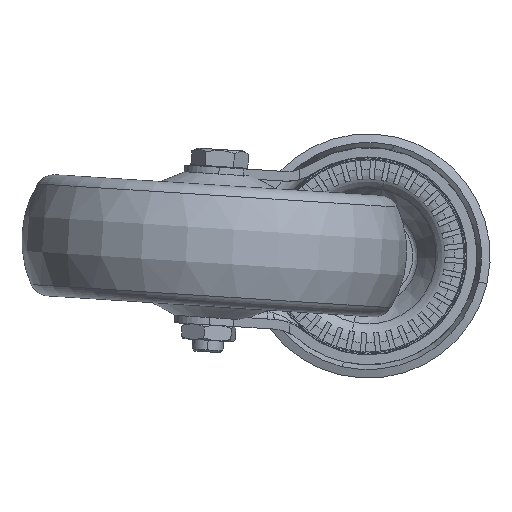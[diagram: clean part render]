
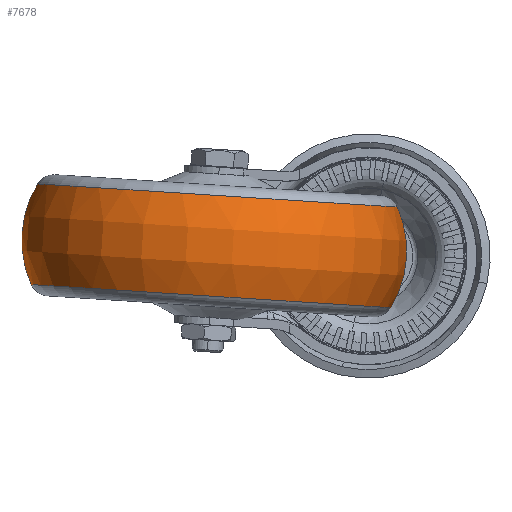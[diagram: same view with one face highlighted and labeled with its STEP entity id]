
A CAD part, front view. The second image highlights one B-rep face of the part: STEP entity #7678.
In plain terms, the highlighted toroidal (fillet/blend) face has major radius 22 mm and minor radius 28 mm.
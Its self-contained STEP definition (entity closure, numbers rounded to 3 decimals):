
#2921 = CARTESIAN_POINT ( 'NONE',  ( 36.377, -57.02, 3.028 ) ) ;
#2926 = CARTESIAN_POINT ( 'NONE',  ( -55.226, -54.852, 35.163 ) ) ;
#2931 = CARTESIAN_POINT ( 'NONE',  ( -56.91, -54.852, 9.042 ) ) ;
#2933 = CARTESIAN_POINT ( 'NONE',  ( 38.061, -57.02, 29.149 ) ) ;
#5612 = EDGE_CURVE ( 'NONE', #24235, #24228, #29233, .T. ) ;
#5628 = EDGE_CURVE ( 'NONE', #24235, #24223, #29260, .T. ) ;
#5629 = EDGE_CURVE ( 'NONE', #24228, #24233, #29264, .T. ) ;
#5630 = EDGE_CURVE ( 'NONE', #24223, #24233, #29266, .T. ) ;
#7678 = ADVANCED_FACE ( 'NONE', ( #33717 ), #34270, .T. ) ;
#24223 = VERTEX_POINT ( 'NONE', #2921 ) ;
#24228 = VERTEX_POINT ( 'NONE', #2926 ) ;
#24233 = VERTEX_POINT ( 'NONE', #2931 ) ;
#24235 = VERTEX_POINT ( 'NONE', #2933 ) ;
#25849 = ORIENTED_EDGE ( 'NONE', *, *, #5628, .F. ) ;
#25850 = ORIENTED_EDGE ( 'NONE', *, *, #5612, .T. ) ;
#25851 = ORIENTED_EDGE ( 'NONE', *, *, #5629, .T. ) ;
#25852 = ORIENTED_EDGE ( 'NONE', *, *, #5630, .F. ) ;
#27265 = EDGE_LOOP ( 'NONE', ( #25849, #25850, #25851, #25852 ) ) ;
#29233 = CIRCLE ( 'NONE', #29237, 46.753 ) ;
#29237 = AXIS2_PLACEMENT_3D ( 'NONE', #30465, #30466, #30467 ) ;
#29260 = CIRCLE ( 'NONE', #29265, 28. ) ;
#29264 = CIRCLE ( 'NONE', #29267, 28. ) ;
#29265 = AXIS2_PLACEMENT_3D ( 'NONE', #30513, #30514, #30515 ) ;
#29266 = CIRCLE ( 'NONE', #29269, 46.753 ) ;
#29267 = AXIS2_PLACEMENT_3D ( 'NONE', #30516, #30517, #30518 ) ;
#29269 = AXIS2_PLACEMENT_3D ( 'NONE', #30519, #30520, #30521 ) ;
#30465 = CARTESIAN_POINT ( 'NONE',  ( -8.582, -55.936, 32.156 ) ) ;
#30466 = DIRECTION ( 'NONE',  ( -0.064, 0., -0.998 ) ) ;
#30467 = DIRECTION ( 'NONE',  ( -0.998, 0.023, 0.064 ) ) ;
#30513 = CARTESIAN_POINT ( 'NONE',  ( 12.524, -56.446, 17.681 ) ) ;
#30514 = DIRECTION ( 'NONE',  ( 0.023, 1., -0.001 ) ) ;
#30515 = DIRECTION ( 'NONE',  ( -1., 0.023, 0. ) ) ;
#30516 = CARTESIAN_POINT ( 'NONE',  ( -31.373, -55.426, 20.511 ) ) ;
#30517 = DIRECTION ( 'NONE',  ( -0.023, -1., 0.001 ) ) ;
#30518 = DIRECTION ( 'NONE',  ( 1., -0.023, 0. ) ) ;
#30519 = CARTESIAN_POINT ( 'NONE',  ( -10.266, -55.936, 6.035 ) ) ;
#30520 = DIRECTION ( 'NONE',  ( -0.064, 0., -0.998 ) ) ;
#30521 = DIRECTION ( 'NONE',  ( -0.998, 0.023, 0.064 ) ) ;
#33716 = DIRECTION ( 'NONE',  ( -0.064, 0., -0.998 ) ) ;
#33717 = FACE_OUTER_BOUND ( 'NONE', #27265, .T. ) ;
#33719 = CARTESIAN_POINT ( 'NONE',  ( -9.424, -55.936, 19.096 ) ) ;
#33722 = DIRECTION ( 'NONE',  ( -0.998, 0.023, 0.064 ) ) ;
#34270 = TOROIDAL_SURFACE ( 'NONE', #34275, 22., 28. ) ;
#34275 = AXIS2_PLACEMENT_3D ( 'NONE', #33719, #33716, #33722 ) ;
